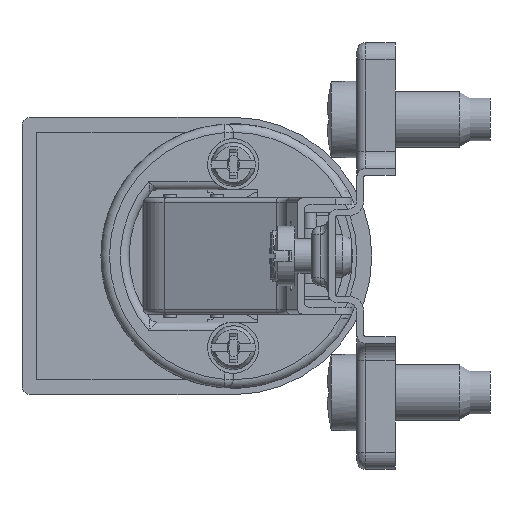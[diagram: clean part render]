
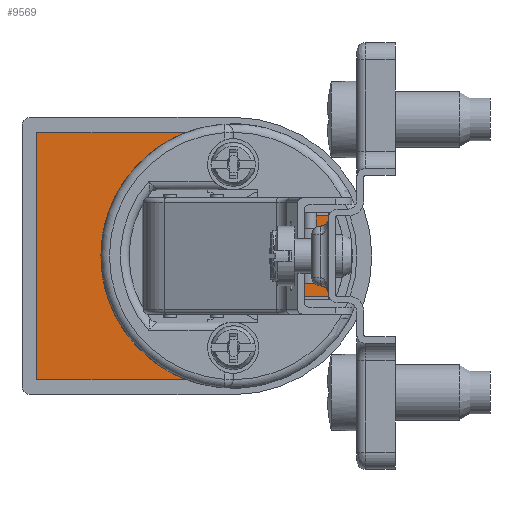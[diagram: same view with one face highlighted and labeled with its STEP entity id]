
A CAD part, left-side view. The second image highlights one B-rep face of the part: STEP entity #9569.
In plain terms, the highlighted planar face has unit normal (-1, 0, 0) as drawn and (0.08, 0.997, 0) by its records, which use the part's own axes.
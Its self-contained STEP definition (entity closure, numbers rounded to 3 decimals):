
#893=LINE('',#16677,#1616);
#897=LINE('',#16684,#1620);
#900=LINE('',#16693,#1623);
#1616=VECTOR('',#13216,29.);
#1620=VECTOR('',#13222,23.);
#1623=VECTOR('',#13233,23.);
#1927=PLANE('',#10593);
#2531=FACE_OUTER_BOUND('',#3143,.T.);
#3143=EDGE_LOOP('',(#8181,#8182,#8183,#8184));
#3685=CIRCLE('',#10591,14.5);
#4469=VERTEX_POINT('',#16674);
#4470=VERTEX_POINT('',#16676);
#4472=VERTEX_POINT('',#16682);
#4474=VERTEX_POINT('',#16688);
#5727=EDGE_CURVE('',#4469,#4470,#893,.T.);
#5731=EDGE_CURVE('',#4472,#4469,#897,.T.);
#5734=EDGE_CURVE('',#4474,#4472,#3685,.T.);
#5736=EDGE_CURVE('',#4470,#4474,#900,.T.);
#8181=ORIENTED_EDGE('',*,*,#5736,.F.);
#8182=ORIENTED_EDGE('',*,*,#5727,.F.);
#8183=ORIENTED_EDGE('',*,*,#5731,.F.);
#8184=ORIENTED_EDGE('',*,*,#5734,.F.);
#9569=ADVANCED_FACE('',(#2531),#1927,.T.);
#10591=AXIS2_PLACEMENT_3D('',#16690,#13228,#13229);
#10593=AXIS2_PLACEMENT_3D('',#16694,#13234,#13235);
#13216=DIRECTION('',(0.,0.,1.));
#13222=DIRECTION('',(0.997,-0.08,0.));
#13228=DIRECTION('center_axis',(-0.08,-0.997,
0.));
#13229=DIRECTION('ref_axis',(0.,0.,1.));
#13233=DIRECTION('',(-0.997,0.08,0.));
#13234=DIRECTION('center_axis',(0.08,0.997,0.));
#13235=DIRECTION('ref_axis',(0.,0.,1.));
#16674=CARTESIAN_POINT('',(88.706,1.229,-14.5));
#16676=CARTESIAN_POINT('',(88.706,1.229,14.5));
#16677=CARTESIAN_POINT('',(88.706,1.229,-8.125));
#16682=CARTESIAN_POINT('',(65.78,3.074,-14.5));
#16684=CARTESIAN_POINT('',(70.009,2.734,-14.5));
#16688=CARTESIAN_POINT('',(65.78,3.074,14.5));
#16690=CARTESIAN_POINT('Origin',(65.78,3.074,0.));
#16693=CARTESIAN_POINT('',(82.345,1.741,14.5));
#16694=CARTESIAN_POINT('Origin',(74.239,2.393,0.));
